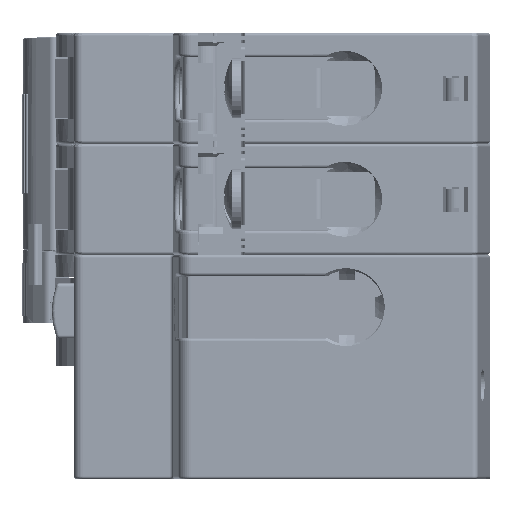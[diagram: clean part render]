
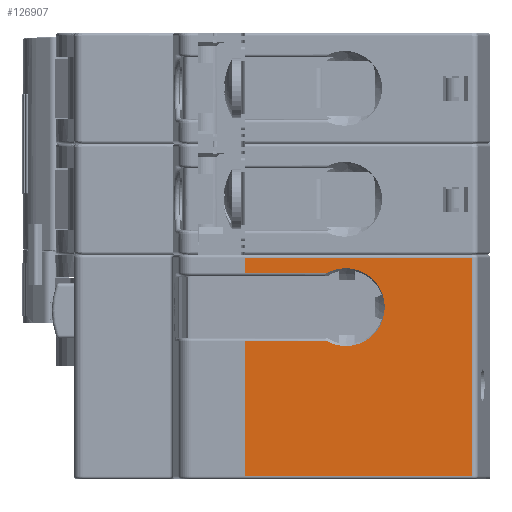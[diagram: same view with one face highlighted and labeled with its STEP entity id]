
A CAD part, left-side view. The second image highlights one B-rep face of the part: STEP entity #126907.
In plain terms, the highlighted planar face has unit normal (-1, 0, 0).
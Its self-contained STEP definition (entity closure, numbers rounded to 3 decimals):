
#1091 = CARTESIAN_POINT ( 'NONE',  ( 0., 0., -36. ) ) ;
#1194 = EDGE_LOOP ( 'NONE', ( #15887, #4142, #20132, #83080, #40012, #141594, #66730, #167589 ) ) ;
#2244 = CARTESIAN_POINT ( 'NONE',  ( 0., 0., -0.5 ) ) ;
#4142 = ORIENTED_EDGE ( 'NONE', *, *, #122106, .T. ) ;
#6547 = VECTOR ( 'NONE', #114317, 1000. ) ;
#6656 = AXIS2_PLACEMENT_3D ( 'NONE', #102649, #25347, #115702 ) ;
#7544 = VERTEX_POINT ( 'NONE', #17904 ) ;
#11730 = VERTEX_POINT ( 'NONE', #125311 ) ;
#15887 = ORIENTED_EDGE ( 'NONE', *, *, #135913, .T. ) ;
#17904 = CARTESIAN_POINT ( 'NONE',  ( 0., -13.292, -2.9 ) ) ;
#18206 = EDGE_CURVE ( 'NONE', #99799, #94237, #139390, .T. ) ;
#20132 = ORIENTED_EDGE ( 'NONE', *, *, #57626, .F. ) ;
#20769 = VECTOR ( 'NONE', #27112, 1000. ) ;
#21276 = CARTESIAN_POINT ( 'NONE',  ( 0., -36.427, -36. ) ) ;
#21754 = FACE_OUTER_BOUND ( 'NONE', #1194, .T. ) ;
#24568 = CARTESIAN_POINT ( 'NONE',  ( 0., -36.427, -36. ) ) ;
#25347 = DIRECTION ( 'NONE',  ( 1., 0., 0. ) ) ;
#25929 = LINE ( 'NONE', #149048, #90519 ) ;
#27112 = DIRECTION ( 'NONE',  ( 0., 0., 1. ) ) ;
#28146 = VECTOR ( 'NONE', #37520, 1000. ) ;
#28924 = CIRCLE ( 'NONE', #6656, 6.245 ) ;
#37520 = DIRECTION ( 'NONE',  ( 0., 0., 1. ) ) ;
#40012 = ORIENTED_EDGE ( 'NONE', *, *, #110202, .T. ) ;
#42706 = EDGE_CURVE ( 'NONE', #75257, #7544, #121543, .T. ) ;
#51118 = CARTESIAN_POINT ( 'NONE',  ( 0., -36.427, -35.5 ) ) ;
#55011 = LINE ( 'NONE', #1091, #20769 ) ;
#56979 = VECTOR ( 'NONE', #151096, 1000. ) ;
#57626 = EDGE_CURVE ( 'NONE', #99799, #76137, #55011, .T. ) ;
#59564 = CARTESIAN_POINT ( 'NONE',  ( 0., -36.427, -35.5 ) ) ;
#60161 = DIRECTION ( 'NONE',  ( -1., 0., 0. ) ) ;
#62444 = LINE ( 'NONE', #24568, #28146 ) ;
#66730 = ORIENTED_EDGE ( 'NONE', *, *, #104642, .F. ) ;
#72683 = CARTESIAN_POINT ( 'NONE',  ( 0., -36.427, -0.5 ) ) ;
#74615 = DIRECTION ( 'NONE',  ( 0., 0., 1. ) ) ;
#75257 = VERTEX_POINT ( 'NONE', #163237 ) ;
#76137 = VERTEX_POINT ( 'NONE', #86790 ) ;
#79251 = LINE ( 'NONE', #165621, #6547 ) ;
#82769 = VERTEX_POINT ( 'NONE', #72683 ) ;
#83080 = ORIENTED_EDGE ( 'NONE', *, *, #18206, .T. ) ;
#86790 = CARTESIAN_POINT ( 'NONE',  ( 0., 0., -13.9 ) ) ;
#90519 = VECTOR ( 'NONE', #74615, 1000. ) ;
#92940 = VERTEX_POINT ( 'NONE', #2244 ) ;
#94237 = VERTEX_POINT ( 'NONE', #51118 ) ;
#94737 = CARTESIAN_POINT ( 'NONE',  ( 0., -12.508, -2.9 ) ) ;
#99799 = VERTEX_POINT ( 'NONE', #146092 ) ;
#102649 = CARTESIAN_POINT ( 'NONE',  ( 0., -16.25, -8.4 ) ) ;
#104642 = EDGE_CURVE ( 'NONE', #75257, #92940, #25929, .T. ) ;
#105065 = VECTOR ( 'NONE', #162876, 1000. ) ;
#110202 = EDGE_CURVE ( 'NONE', #94237, #82769, #62444, .T. ) ;
#111142 = AXIS2_PLACEMENT_3D ( 'NONE', #21276, #60161, #150495 ) ;
#114317 = DIRECTION ( 'NONE',  ( 0., 1., 0. ) ) ;
#115702 = DIRECTION ( 'NONE',  ( 0., -1., 0. ) ) ;
#121543 = LINE ( 'NONE', #94737, #129630 ) ;
#122106 = EDGE_CURVE ( 'NONE', #11730, #76137, #79251, .T. ) ;
#125311 = CARTESIAN_POINT ( 'NONE',  ( 0., -13.292, -13.9 ) ) ;
#125758 = LINE ( 'NONE', #138122, #56979 ) ;
#126907 = ADVANCED_FACE ( 'NONE', ( #21754 ), #149927, .T. ) ;
#129630 = VECTOR ( 'NONE', #146691, 1000. ) ;
#135913 = EDGE_CURVE ( 'NONE', #7544, #11730, #28924, .T. ) ;
#138122 = CARTESIAN_POINT ( 'NONE',  ( 0., -36.427, -0.5 ) ) ;
#139390 = LINE ( 'NONE', #59564, #105065 ) ;
#141594 = ORIENTED_EDGE ( 'NONE', *, *, #152971, .T. ) ;
#146092 = CARTESIAN_POINT ( 'NONE',  ( 0., 0., -35.5 ) ) ;
#146691 = DIRECTION ( 'NONE',  ( 0., -1., 0. ) ) ;
#149048 = CARTESIAN_POINT ( 'NONE',  ( 0., 0., -36. ) ) ;
#149927 = PLANE ( 'NONE',  #111142 ) ;
#150495 = DIRECTION ( 'NONE',  ( 0., -1., 0. ) ) ;
#151096 = DIRECTION ( 'NONE',  ( 0., 1., 0. ) ) ;
#152971 = EDGE_CURVE ( 'NONE', #82769, #92940, #125758, .T. ) ;
#162876 = DIRECTION ( 'NONE',  ( 0., -1., 0. ) ) ;
#163237 = CARTESIAN_POINT ( 'NONE',  ( 0., 0., -2.9 ) ) ;
#165621 = CARTESIAN_POINT ( 'NONE',  ( 0., 0., -13.9 ) ) ;
#167589 = ORIENTED_EDGE ( 'NONE', *, *, #42706, .T. ) ;
